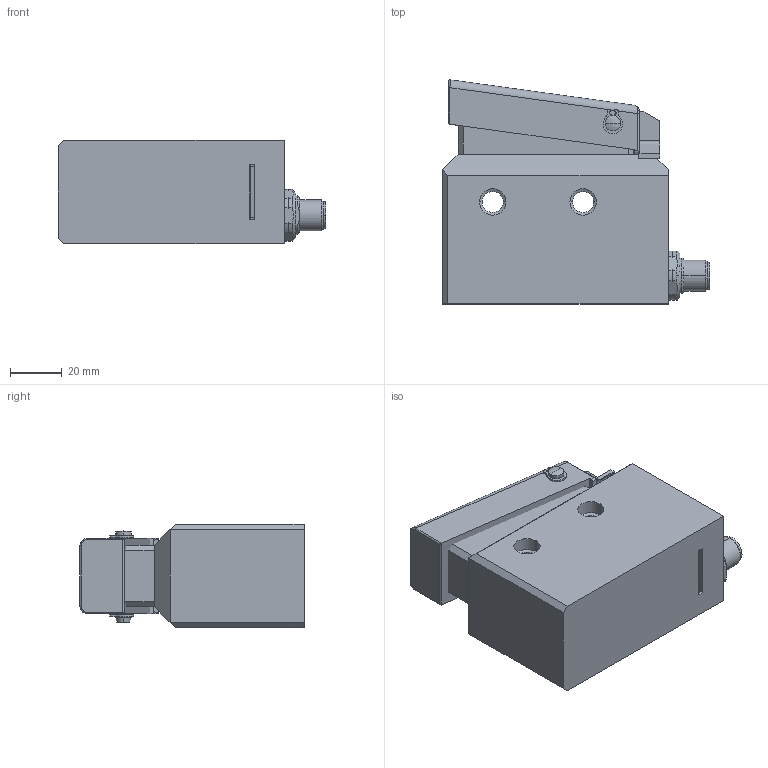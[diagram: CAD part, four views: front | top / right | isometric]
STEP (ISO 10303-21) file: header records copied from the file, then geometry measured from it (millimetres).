
FILE_DESCRIPTION (( 'STEP AP203' ), '1' );
FILE_NAME ('ASREL-003.STEP', '2017-01-10T05:37:05', ( '' ), ( '' ), 'SwSTEP 2.0', 'SolidWorks 2015', '' );
FILE_SCHEMA (( 'CONFIG_CONTROL_DESIGN' ));
Length unit declared in the file: millimetre
Products named in the file (1): ASREL-003
Bounding box: 103.5 x 86.79 x 40 mm (x, y, z)
Volume: 244210.8 mm3; surface area: 44457.2 mm2
Topology: 2 solids, 14 shells, 814 faces, 2145 edges, 1390 vertices
Faces by surface type: cylinder 336, plane 311, cone 93, bspline 65, sphere 7, torus 2
Entity records: 28653 total; most frequent: CARTESIAN_POINT 8459, ORIENTED_EDGE 4224, DIRECTION 4209, EDGE_CURVE 2112, AXIS2_PLACEMENT_3D 1532, VERTEX_POINT 1380, LINE 1145, VECTOR 1145
